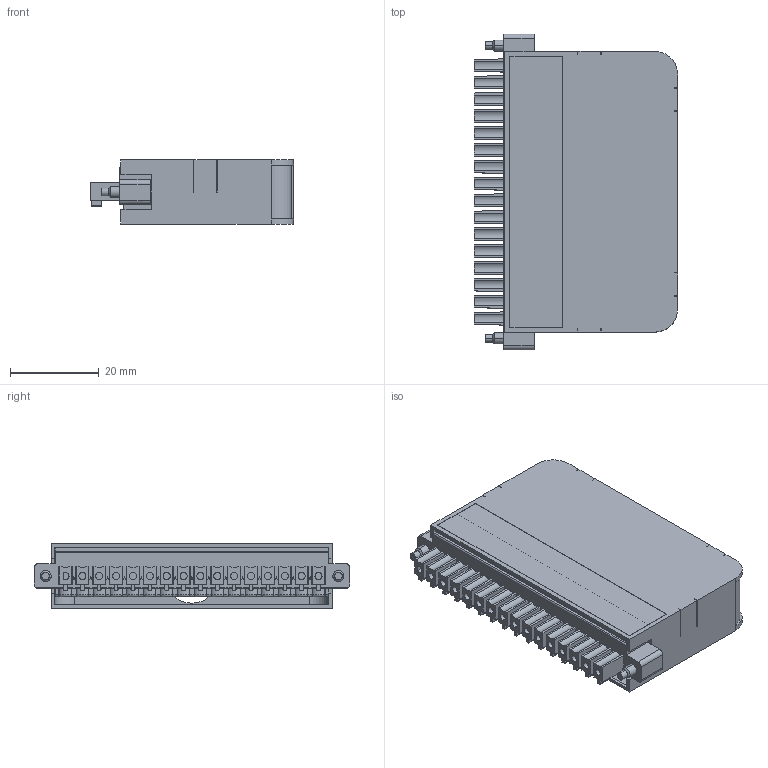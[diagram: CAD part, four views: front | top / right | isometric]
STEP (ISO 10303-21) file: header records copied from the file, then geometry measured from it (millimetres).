
FILE_DESCRIPTION((''),'2;1');
FILE_NAME('CU_USB_CONN_16POS','2007-08-28T',('jpearson'),(''),'PRO/ENGINEER BY PARAMETRIC TECHNOLOGY CORPORATION, 2006080','PRO/ENGINEER BY PARAMETRIC TECHNOLOGY CORPORATION, 2006080','');
FILE_SCHEMA(('CONFIG_CONTROL_DESIGN'));
Length unit declared in the file: inch
Products named in the file (1): CU_USB_CONN_16POS
Bounding box: 45.87 x 71.35 x 14.5 mm (x, y, z)
Volume: 11101.6 mm3; surface area: 19215.7 mm2
Topology: 1 solids, 1 shells, 1168 faces, 3270 edges, 2186 vertices
Faces by surface type: plane 742, cylinder 326, torus 48, cone 36, sphere 16
Entity records: 38594 total; most frequent: CARTESIAN_POINT 8469, ORIENTED_EDGE 6508, DIRECTION 5979, EDGE_CURVE 3254, VERTEX_POINT 2186, VECTOR 2005, LINE 2005, AXIS2_PLACEMENT_3D 1987
